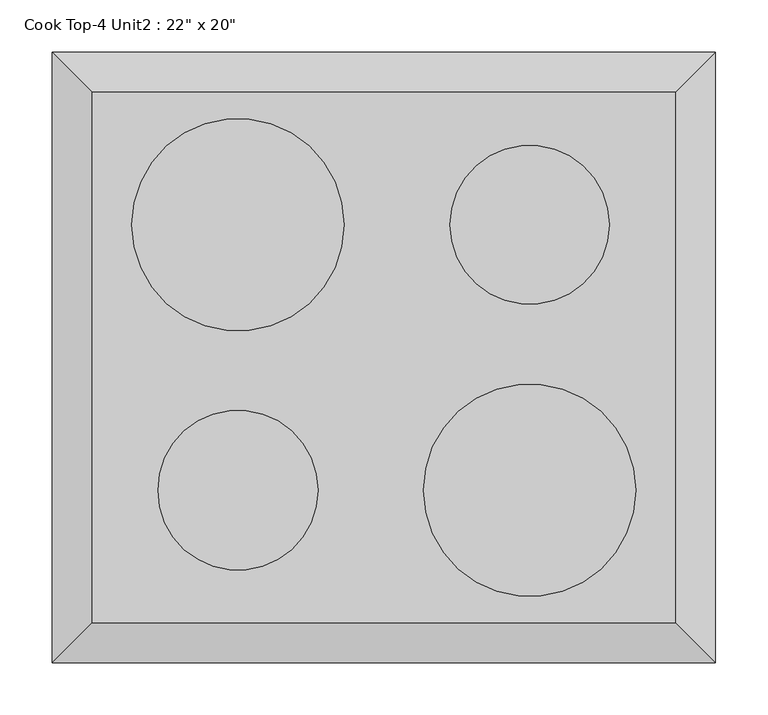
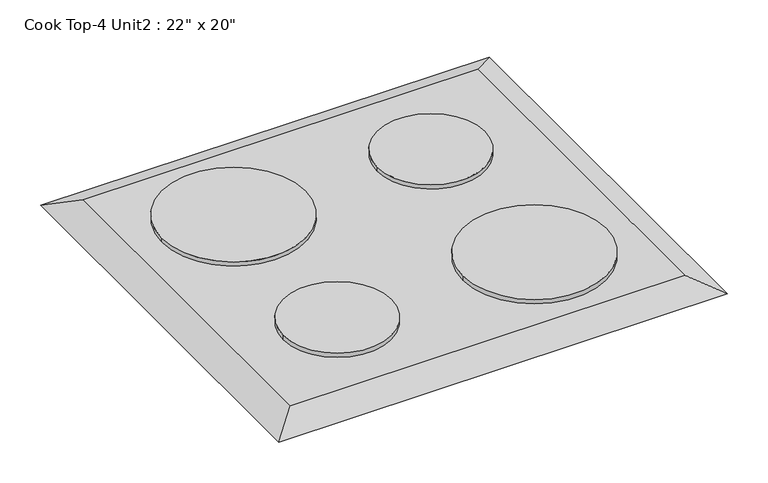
"""IFC4 building model written with IfcOpenShell, lengths in millimetres: proxy geometry."""

from ifc_helpers import new_model, si_unit, point, frame, frame_2d, origin, place, context, project, spatial, circle_curve, trimmed, segment, composite_curve, outline, extrude, faceted_brep, source, transform, mapped, element, save


def proxy_dfcd9396(model_context):
    return source(origin(), model_context, "Body", "SolidModel", [
        extrude(outline(composite_curve([segment(trimmed(circle_curve(frame_2d((-139.7, -127.0)), 76.5869489), [point((-63.1130511, -127.0))], [point((-216.2869489, -127.0))], False, "CARTESIAN"), True, "CONTINUOUS"), segment(trimmed(circle_curve(frame_2d((-139.7, -127.0)), 76.5869489), [point((-216.2869489, -127.0))], [point((-63.1130511, -127.0))], False, "CARTESIAN"), True, "CONTINUOUS")], self_intersect=False)), frame((0.0, 0.0, 918.0), z_axis=(0.0, 0.0, 1.0), x_axis=(1.0, 0.0, 0.0)), (0.0, 0.0, 1.0), 6.35),
        extrude(outline(composite_curve([segment(trimmed(circle_curve(frame_2d((139.7, 127.0)), 76.2), [point((215.9, 127.0))], [point((63.5, 127.0))], False, "CARTESIAN"), True, "CONTINUOUS"), segment(trimmed(circle_curve(frame_2d((139.7, 127.0)), 76.2), [point((63.5, 127.0))], [point((215.9, 127.0))], False, "CARTESIAN"), True, "CONTINUOUS")], self_intersect=False)), frame((0.0, 0.0, 918.0), z_axis=(0.0, 0.0, 1.0), x_axis=(1.0, 0.0, 0.0)), (0.0, 0.0, 1.0), 6.35),
        extrude(outline(composite_curve([segment(trimmed(circle_curve(frame_2d((139.7, -127.0)), 101.6), [point((38.1, -127.0))], [point((241.3, -127.0))], False, "CARTESIAN"), True, "CONTINUOUS"), segment(trimmed(circle_curve(frame_2d((139.7, -127.0)), 101.6), [point((241.3, -127.0))], [point((38.1, -127.0))], False, "CARTESIAN"), True, "CONTINUOUS")], self_intersect=False)), frame((0.0, 0.0, 918.0), z_axis=(0.0, 0.0, 1.0), x_axis=(1.0, 0.0, 0.0)), (0.0, 0.0, 1.0), 6.35),
        faceted_brep([(279.4, -254.0, 918.0), (279.4, 254.0, 918.0), (-279.4, 254.0, 918.0), (-279.4, -254.0, 918.0), (317.5, -292.1, 900.0), (-317.5, -292.1, 900.0), (-317.5, 292.1, 900.0), (317.5, 292.1, 900.0)], [[[0, 1, 2, 3]], [[4, 5, 6, 7]], [[4, 0, 3, 5]], [[5, 3, 2, 6]], [[6, 2, 1, 7]], [[7, 1, 0, 4]]]),
        extrude(outline(composite_curve([segment(trimmed(circle_curve(frame_2d((-139.7, 127.0)), 101.6), [point((-38.1, 127.0))], [point((-241.3, 127.0))], False, "CARTESIAN"), True, "CONTINUOUS"), segment(trimmed(circle_curve(frame_2d((-139.7, 127.0)), 101.6), [point((-241.3, 127.0))], [point((-38.1, 127.0))], False, "CARTESIAN"), True, "CONTINUOUS")], self_intersect=False)), frame((0.0, 0.0, 918.0), z_axis=(0.0, 0.0, 1.0), x_axis=(1.0, 0.0, 0.0)), (0.0, 0.0, 1.0), 6.35),
    ])


if __name__ == "__main__":
    model = new_model("IFC4")
    model_context = context("Model", 3, world=origin())
    ifc_project = project(units=[si_unit("LENGTHUNIT", "METRE", prefix="MILLI")], contexts=[model_context])
    site = spatial("IfcSite", under=ifc_project)
    building = spatial("IfcBuilding", under=site)
    placement = place(None, origin())
    proxy_shape = proxy_dfcd9396(model_context)
    element("IfcBuildingElementProxy", 1, Name="Cook Top-4 Unit2 : 22\" x 20\"", ObjectType="Cook Top-4 Unit2 : 22\" x 20\"", at=placement, inside=building, context=model_context, shape_type="MappedRepresentation", body=[
        mapped(proxy_shape, transform((0.0, 0.0, 0.0), x_axis=(1.0, 0.0, 0.0), y_axis=(0.0, 1.0, 0.0), z_axis=(0.0, 0.0, 1.0))),
    ])
    save(model, "model.ifc")
